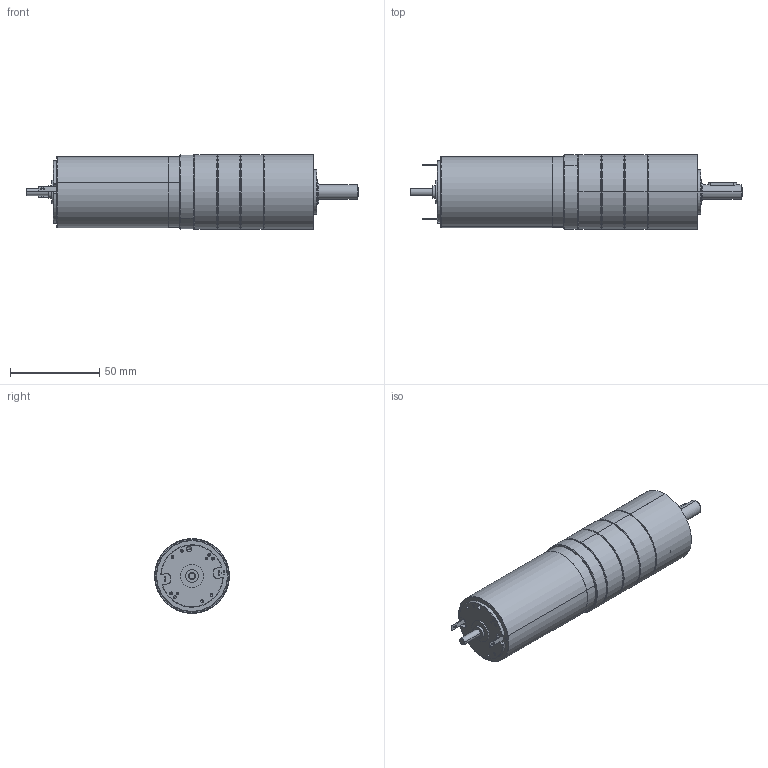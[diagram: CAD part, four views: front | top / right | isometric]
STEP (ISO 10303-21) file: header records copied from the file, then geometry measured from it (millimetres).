
FILE_DESCRIPTION (( 'STEP AP214' ), '1' );
FILE_NAME ('RE40_+_PM42-3ETAGEs.STEP', '2014-08-27T14:41:09', ( '' ), ( '' ), 'SwSTEP 2.0', 'SolidWorks 2013', '' );
FILE_SCHEMA (( 'AUTOMOTIVE_DESIGN' ));
Length unit declared in the file: millimetre
Products named in the file (18): 8001305_LAGERBOLZEN_13; VBZ_K7841_ABTRIEB_AF0_13; DIN998_PS_8X14X1_13; D625-608-2RS_12; 8007595_LAGERFLANSCH_12; RE40G_Part; RE40_+_PM42-3ETAGEs; D912_M3X10_1_1; MOTORFLANSCH_1240243_1_1; bmz_1249466_2; SCHRAUBE_1241978_22; 8012556_MOTORRITZEL_Z17_2; 8001288_ANLAUFSCHEIBE_1ST_11; P8209_8007589_ZAHNKRANZ_Z46_12; 8007606_DICHTRING_12; 3X3X16_D6885A_13; D471_8X0_8_13; 8001316_ABTRIEB_LK4_KPL_12
Assembly tree (31 placements, depth 4):
  RE40_+_PM42-3ETAGEs
    RE40G_Part
    bmz_1249466_2
      8007595_LAGERFLANSCH_12
      D625-608-2RS_12  x2
      DIN998_PS_8X14X1_13  x2
      8001316_ABTRIEB_LK4_KPL_12
        VBZ_K7841_ABTRIEB_AF0_13
        8001305_LAGERBOLZEN_13  x3
      D471_8X0_8_13
      3X3X16_D6885A_13
      8007606_DICHTRING_12  x2
      P8209_8007589_ZAHNKRANZ_Z46_12
      8001288_ANLAUFSCHEIBE_1ST_11
      8012556_MOTORRITZEL_Z17_2
      SCHRAUBE_1241978_22  x4
    MOTORFLANSCH_1240243_1_1
    D912_M3X10_1_1  x3
    P8209_8007589_ZAHNKRANZ_Z46_12  x2
    8007606_DICHTRING_12  x2
Bounding box: 186.3 x 42 x 42 mm (x, y, z)
Volume: 124222.4 mm3; surface area: 70358.9 mm2
Topology: 23 solids, 55 shells, 1428 faces, 3770 edges, 2446 vertices
Faces by surface type: cylinder 693, plane 525, cone 152, bspline 58
Entity records: 28542 total; most frequent: CARTESIAN_POINT 6236, DIRECTION 4542, ORIENTED_EDGE 4016, EDGE_CURVE 2038, AXIS2_PLACEMENT_3D 1746, VERTEX_POINT 1336, VECTOR 1050, LINE 1050
